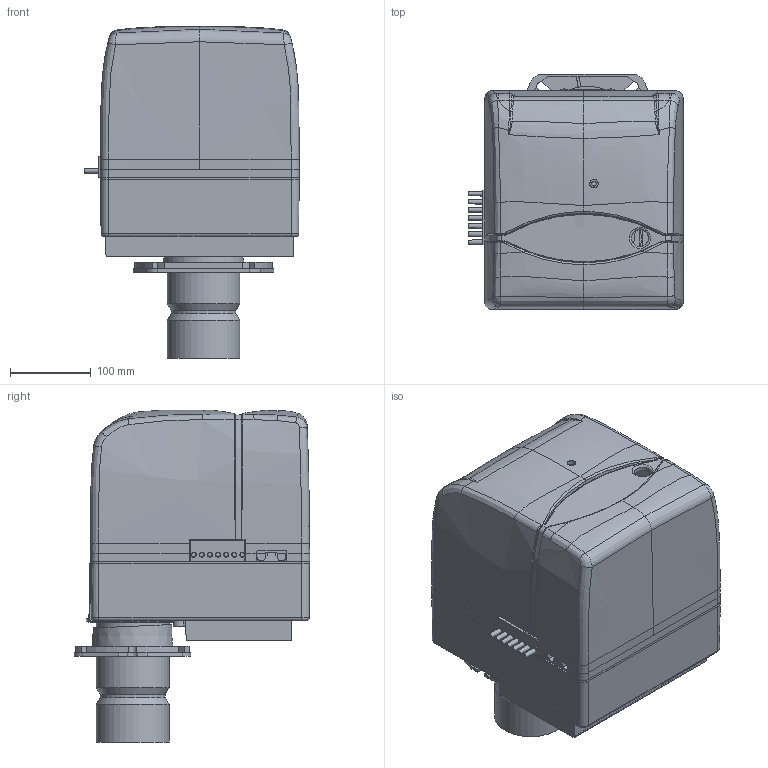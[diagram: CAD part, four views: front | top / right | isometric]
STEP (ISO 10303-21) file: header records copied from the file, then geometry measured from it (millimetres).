
FILE_DESCRIPTION (( 'STEP AP203' ), '1' );
FILE_NAME ('17040010-114012_svuotato.STEP', '2017-01-13T10:16:17', ( '' ), ( '' ), 'SwSTEP 2.0', 'SolidWorks 2016', '' );
FILE_SCHEMA (( 'CONFIG_CONTROL_DESIGN' ));
Products named in the file (1): 17040010-114012_svuotato
Bounding box: 264.9 x 290.7 x 410.26 mm (x, y, z)
Surface area: 695951.9 mm2 (no closed solid volume)
Topology: 0 solids, 30 shells, 768 faces, 2935 edges, 2102 vertices
Faces by surface type: plane 360, bspline 168, cylinder 125, cone 115
Full cylindrical faces by diameter (mm): 5 x4, 6 x4, 10.5 x1, 21 x1, 76.012 x1, 80.012 x1, 86 x1, 90 x2
Entity records: 69323 total; most frequent: CARTESIAN_POINT 47792, ORIENTED_EDGE 4650, DIRECTION 3226, EDGE_CURVE 2892, VERTEX_POINT 2097, VECTOR 1532, LINE 1532, B_SPLINE_CURVE_WITH_KNOTS 1043
